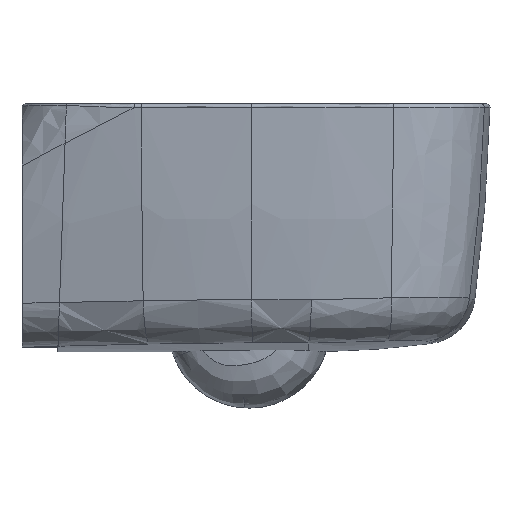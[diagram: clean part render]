
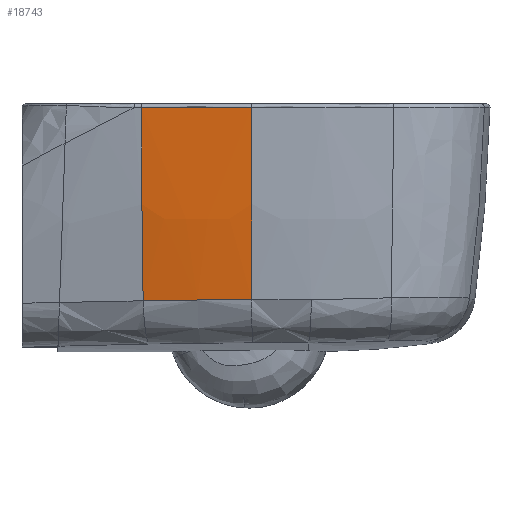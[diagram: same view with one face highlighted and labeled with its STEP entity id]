
A CAD part, front view. The second image highlights one B-rep face of the part: STEP entity #18743.
In plain terms, the highlighted free-form (B-spline) face has degree [5, 5] with [6, 9] control points.
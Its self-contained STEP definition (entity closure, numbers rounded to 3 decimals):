
#18002=CARTESIAN_POINT('Vertex',(250.002,-179.898,-4.104)) ;
#18050=CARTESIAN_POINT('Vertex',(250.268,-163.362,-213.227)) ;
#18054=CARTESIAN_POINT('Control Point',(250.002,-179.898,-4.104)) ;
#18055=CARTESIAN_POINT('Control Point',(250.012,-179.27,-28.347)) ;
#18056=CARTESIAN_POINT('Control Point',(250.028,-178.273,-52.559)) ;
#18057=CARTESIAN_POINT('Control Point',(250.05,-176.906,-76.738)) ;
#18058=CARTESIAN_POINT('Control Point',(250.098,-173.897,-118.589)) ;
#18059=CARTESIAN_POINT('Control Point',(250.165,-169.779,-160.343)) ;
#18060=CARTESIAN_POINT('Control Point',(250.196,-167.839,-177.988)) ;
#18061=CARTESIAN_POINT('Control Point',(250.231,-165.7,-195.616)) ;
#18062=CARTESIAN_POINT('Control Point',(250.268,-163.362,-213.227)) ;
#18653=CARTESIAN_POINT('Control Point',(250.,-180.,0.)) ;
#18654=CARTESIAN_POINT('Control Point',(250.01,-179.402,-25.069)) ;
#18655=CARTESIAN_POINT('Control Point',(250.026,-178.41,-50.104)) ;
#18656=CARTESIAN_POINT('Control Point',(250.048,-177.023,-75.104)) ;
#18657=CARTESIAN_POINT('Control Point',(250.106,-173.45,-125.173)) ;
#18658=CARTESIAN_POINT('Control Point',(250.189,-168.289,-175.105)) ;
#18659=CARTESIAN_POINT('Control Point',(250.237,-165.302,-200.105)) ;
#18660=CARTESIAN_POINT('Control Point',(250.292,-161.916,-225.07)) ;
#18661=CARTESIAN_POINT('Control Point',(250.353,-158.131,-250.)) ;
#18662=CARTESIAN_POINT('Control Point',(225.938,-179.612,0.)) ;
#18663=CARTESIAN_POINT('Control Point',(225.96,-179.014,-25.069)) ;
#18664=CARTESIAN_POINT('Control Point',(225.996,-178.022,-50.104)) ;
#18665=CARTESIAN_POINT('Control Point',(226.046,-176.636,-75.104)) ;
#18666=CARTESIAN_POINT('Control Point',(226.176,-173.064,-125.173)) ;
#18667=CARTESIAN_POINT('Control Point',(226.363,-167.904,-175.105)) ;
#18668=CARTESIAN_POINT('Control Point',(226.472,-164.918,-200.105)) ;
#18669=CARTESIAN_POINT('Control Point',(226.595,-161.534,-225.07)) ;
#18670=CARTESIAN_POINT('Control Point',(226.732,-157.75,-250.)) ;
#18671=CARTESIAN_POINT('Control Point',(201.886,-178.617,0.)) ;
#18672=CARTESIAN_POINT('Control Point',(201.92,-178.02,-25.069)) ;
#18673=CARTESIAN_POINT('Control Point',(201.976,-177.029,-50.104)) ;
#18674=CARTESIAN_POINT('Control Point',(202.054,-175.643,-75.104)) ;
#18675=CARTESIAN_POINT('Control Point',(202.256,-172.074,-125.173)) ;
#18676=CARTESIAN_POINT('Control Point',(202.548,-166.919,-175.105)) ;
#18677=CARTESIAN_POINT('Control Point',(202.717,-163.936,-200.105)) ;
#18678=CARTESIAN_POINT('Control Point',(202.908,-160.554,-225.07)) ;
#18679=CARTESIAN_POINT('Control Point',(203.122,-156.773,-250.)) ;
#18680=CARTESIAN_POINT('Control Point',(177.869,-177.014,0.)) ;
#18681=CARTESIAN_POINT('Control Point',(177.915,-176.418,-25.069)) ;
#18682=CARTESIAN_POINT('Control Point',(177.991,-175.428,-50.104)) ;
#18683=CARTESIAN_POINT('Control Point',(178.097,-174.045,-75.104)) ;
#18684=CARTESIAN_POINT('Control Point',(178.371,-170.48,-125.173)) ;
#18685=CARTESIAN_POINT('Control Point',(178.767,-165.332,-175.105)) ;
#18686=CARTESIAN_POINT('Control Point',(178.996,-162.353,-200.105)) ;
#18687=CARTESIAN_POINT('Control Point',(179.256,-158.975,-225.07)) ;
#18688=CARTESIAN_POINT('Control Point',(179.546,-155.2,-250.)) ;
#18689=CARTESIAN_POINT('Control Point',(153.899,-174.806,0.)) ;
#18690=CARTESIAN_POINT('Control Point',(153.957,-174.211,-25.069)) ;
#18691=CARTESIAN_POINT('Control Point',(154.053,-173.223,-50.104)) ;
#18692=CARTESIAN_POINT('Control Point',(154.187,-171.842,-75.104)) ;
#18693=CARTESIAN_POINT('Control Point',(154.533,-168.284,-125.173)) ;
#18694=CARTESIAN_POINT('Control Point',(155.032,-163.146,-175.105)) ;
#18695=CARTESIAN_POINT('Control Point',(155.321,-160.172,-200.105)) ;
#18696=CARTESIAN_POINT('Control Point',(155.649,-156.801,-225.07)) ;
#18697=CARTESIAN_POINT('Control Point',(156.015,-153.032,-250.)) ;
#18698=CARTESIAN_POINT('Control Point',(130.,-172.,0.)) ;
#18699=CARTESIAN_POINT('Control Point',(130.07,-171.406,-25.069)) ;
#18700=CARTESIAN_POINT('Control Point',(130.185,-170.421,-50.104)) ;
#18701=CARTESIAN_POINT('Control Point',(130.347,-169.043,-75.104)) ;
#18702=CARTESIAN_POINT('Control Point',(130.764,-165.493,-125.173)) ;
#18703=CARTESIAN_POINT('Control Point',(131.366,-160.367,-175.105)) ;
#18704=CARTESIAN_POINT('Control Point',(131.714,-157.4,-200.105)) ;
#18705=CARTESIAN_POINT('Control Point',(132.109,-154.037,-225.07)) ;
#18706=CARTESIAN_POINT('Control Point',(132.551,-150.277,-250.)) ;
#18708=CARTESIAN_POINT('Control Point',(250.002,-179.898,-4.104)) ;
#18709=CARTESIAN_POINT('Control Point',(225.942,-179.51,-4.104)) ;
#18710=CARTESIAN_POINT('Control Point',(201.892,-178.515,-4.104)) ;
#18711=CARTESIAN_POINT('Control Point',(177.877,-176.912,-4.104)) ;
#18712=CARTESIAN_POINT('Control Point',(153.909,-174.705,-4.104)) ;
#18713=CARTESIAN_POINT('Control Point',(130.012,-171.899,-4.104)) ;
#18714=CARTESIAN_POINT('Vertex',(130.012,-171.899,-4.104)) ;
#18718=CARTESIAN_POINT('Control Point',(250.268,-163.362,-213.227)) ;
#18719=CARTESIAN_POINT('Control Point',(220.606,-162.873,-213.307)) ;
#18720=CARTESIAN_POINT('Control Point',(190.964,-161.365,-213.553)) ;
#18721=CARTESIAN_POINT('Control Point',(161.397,-158.834,-213.961)) ;
#18722=CARTESIAN_POINT('Control Point',(131.96,-155.306,-214.497)) ;
#18723=CARTESIAN_POINT('Vertex',(131.96,-155.306,-214.497)) ;
#18727=CARTESIAN_POINT('Control Point',(130.012,-171.899,-4.104)) ;
#18728=CARTESIAN_POINT('Control Point',(130.085,-171.275,-28.347)) ;
#18729=CARTESIAN_POINT('Control Point',(130.201,-170.284,-52.559)) ;
#18730=CARTESIAN_POINT('Control Point',(130.361,-168.927,-76.738)) ;
#18731=CARTESIAN_POINT('Control Point',(130.714,-165.92,-118.844)) ;
#18732=CARTESIAN_POINT('Control Point',(131.198,-161.798,-160.852)) ;
#18733=CARTESIAN_POINT('Control Point',(131.428,-159.837,-178.752)) ;
#18734=CARTESIAN_POINT('Control Point',(131.682,-157.673,-196.633)) ;
#18735=CARTESIAN_POINT('Control Point',(131.96,-155.306,-214.497)) ;
#18738=ORIENTED_EDGE('',*,*,#18716,.F.) ;
#18739=ORIENTED_EDGE('',*,*,#18063,.T.) ;
#18740=ORIENTED_EDGE('',*,*,#18725,.T.) ;
#18741=ORIENTED_EDGE('',*,*,#18736,.F.) ;
#18743=ADVANCED_FACE('Spezza.22',(#18742),#18652,.F.) ;
#18053=B_SPLINE_CURVE_WITH_KNOTS('',5,(#18054,#18055,#18056,#18057,#18058,#18059,#18060,#18061,#18062),.UNSPECIFIED.,.F.,.U.,(6,3,6),(4.1,125.224,214.028),.UNSPECIFIED.) ;
#18707=B_SPLINE_CURVE_WITH_KNOTS('',5,(#18708,#18709,#18710,#18711,#18712,#18713),.UNSPECIFIED.,.F.,.U.,(6,6),(0.,119.468),.UNSPECIFIED.) ;
#18717=B_SPLINE_CURVE_WITH_KNOTS('',4,(#18718,#18719,#18720,#18721,#18722),.UNSPECIFIED.,.F.,.U.,(5,5),(0.,168.395),.UNSPECIFIED.) ;
#18726=B_SPLINE_CURVE_WITH_KNOTS('',5,(#18727,#18728,#18729,#18730,#18731,#18732,#18733,#18734,#18735),.UNSPECIFIED.,.F.,.U.,(6,3,6),(4.1,125.224,215.309),.UNSPECIFIED.) ;
#18652=B_SPLINE_SURFACE_WITH_KNOTS('',5,5,((#18653,#18654,#18655,#18656,#18657,#18658,#18659,#18660,#18661),(#18662,#18663,#18664,#18665,#18666,#18667,#18668,#18669,#18670),(#18671,#18672,#18673,#18674,#18675,#18676,#18677,#18678,#18679),(#18680,#18681,#18682,#18683,#18684,#18685,#18686,#18687,#18688),(#18689,#18690,#18691,#18692,#18693,#18694,#18695,#18696,#18697),(#18698,#18699,#18700,#18701,#18702,#18703,#18704,#18705,#18706)),.UNSPECIFIED.,.F.,.F.,.U.,(6,6),(6,3,6),(0.,119.468),(0.,125.224,251.145),.UNSPECIFIED.) ;
#18063=EDGE_CURVE('',#18003,#18051,#18053,.T.) ;
#18716=EDGE_CURVE('',#18003,#18715,#18707,.T.) ;
#18725=EDGE_CURVE('',#18051,#18724,#18717,.T.) ;
#18736=EDGE_CURVE('',#18715,#18724,#18726,.T.) ;
#18737=EDGE_LOOP('',(#18738,#18739,#18740,#18741)) ;
#18742=FACE_OUTER_BOUND('',#18737,.T.) ;
#18003=VERTEX_POINT('',#18002) ;
#18051=VERTEX_POINT('',#18050) ;
#18715=VERTEX_POINT('',#18714) ;
#18724=VERTEX_POINT('',#18723) ;
